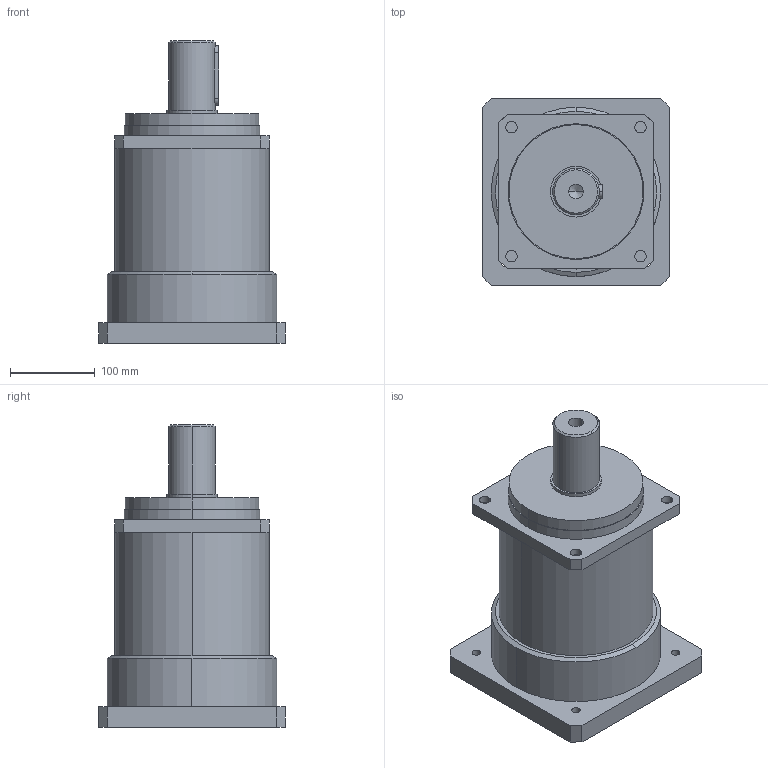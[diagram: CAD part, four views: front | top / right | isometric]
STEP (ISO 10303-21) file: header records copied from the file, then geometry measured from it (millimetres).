
FILE_DESCRIPTION (( 'STEP AP214' ), '1' );
FILE_NAME ('VRS180-L1.STEP', '2019-08-31T06:46:13', ( '微软用户' ), ( '微软中国' ), 'SwSTEP 2.0', 'SolidWorks 2014', '' );
FILE_SCHEMA (( 'AUTOMOTIVE_DESIGN' ));
Length unit declared in the file: millimetre
Products named in the file (2): VRS180-L1
Bounding box: 220 x 220 x 356.5 mm (x, y, z)
Volume: 7513449.6 mm3; surface area: 317588.3 mm2
Topology: 1 solids, 1 shells, 705 faces, 2007 edges, 1334 vertices
Faces by surface type: plane 602, bspline 60, cylinder 37, cone 6
Entity records: 29836 total; most frequent: CARTESIAN_POINT 4918, ORIENTED_EDGE 4010, DIRECTION 3256, EDGE_CURVE 2005, VECTOR 1800, LINE 1800, VERTEX_POINT 1334, EDGE_LOOP 745
